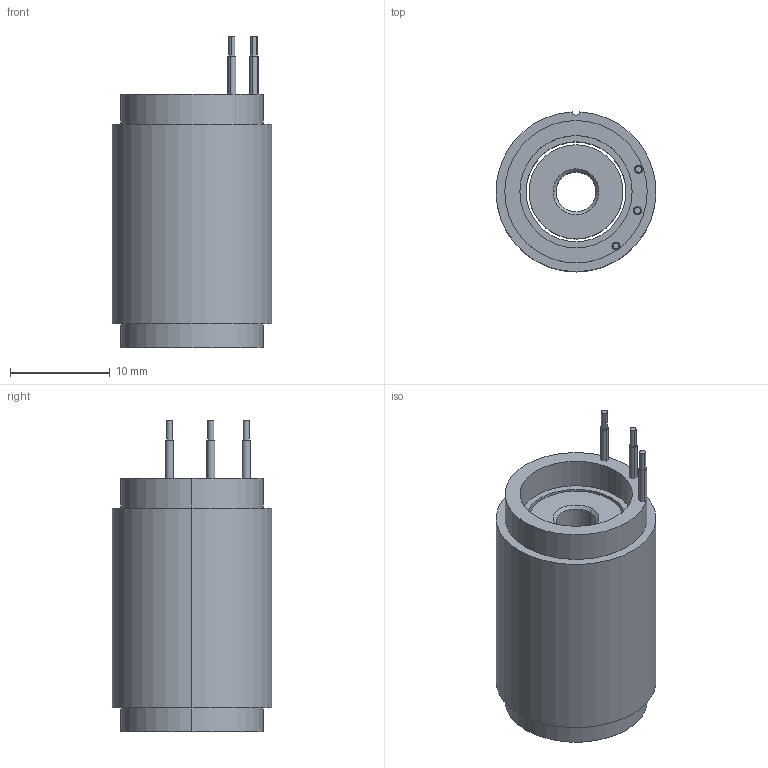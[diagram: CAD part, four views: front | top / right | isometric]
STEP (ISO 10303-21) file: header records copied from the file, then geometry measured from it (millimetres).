
FILE_DESCRIPTION (( 'STEP AP214' ), '1' );
FILE_NAME ('U1625 3D Model (STEP).STEP', '2025-12-12T06:17:19', ( 'Windows User' ), ( 'P R C' ), 'SwSTEP 2.0', 'SolidWorks 2023', '' );
FILE_SCHEMA (( 'AUTOMOTIVE_DESIGN' ));
Length unit declared in the file: millimetre
Products named in the file (5): #26AWG 电缆线U1919.STEP_1.STEP; 1625铁芯.STEP; U1625转轴.STEP; U1625 3D Model (STEP); U1625 3D Model (STEP).STEP
Assembly tree (4 placements, depth 3):
  U1625 3D Model (STEP)
    U1625 3D Model (STEP).STEP
      1625铁芯.STEP
      U1625转轴.STEP
      #26AWG 电缆线U1919.STEP_1.STEP
Bounding box: 16 x 15.99 x 31.21 mm (x, y, z)
Volume: 3919.7 mm3; surface area: 3343.6 mm2
Topology: 5 solids, 5 shells, 51 faces, 98 edges, 64 vertices
Faces by surface type: cylinder 30, plane 17, cone 4
Entity records: 1497 total; most frequent: DIRECTION 280, CARTESIAN_POINT 221, ORIENTED_EDGE 196, AXIS2_PLACEMENT_3D 123, EDGE_CURVE 98, CIRCLE 64, VERTEX_POINT 64, EDGE_LOOP 62
